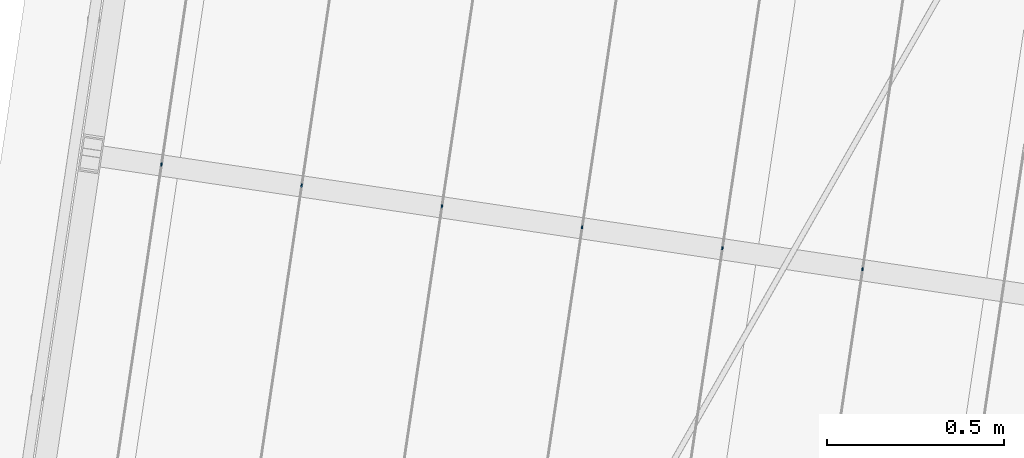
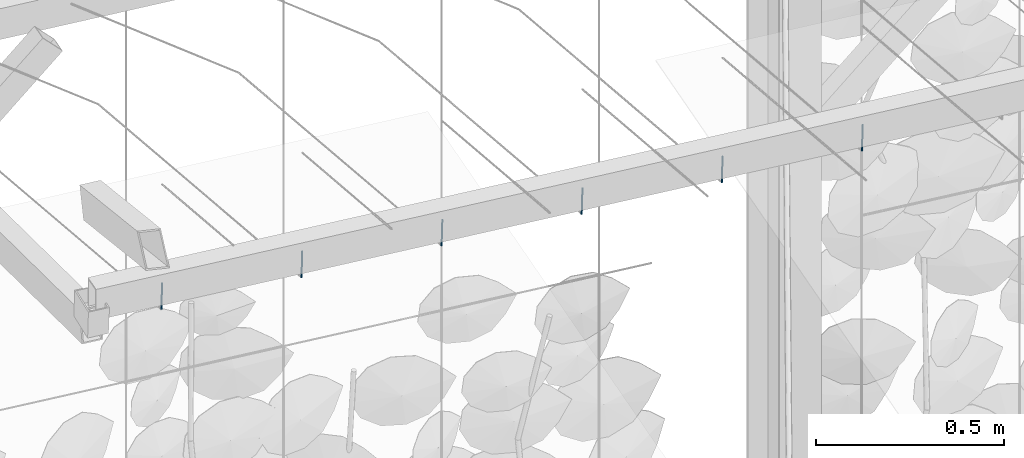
# One storey, part 131 of 142: 6 members, 1 element without a shape of its own.
"""IFC4 building model written with IfcOpenShell, lengths in metres."""

from ifc_helpers import new_model, si_unit, direction, frame, origin_with_axes, place, context, subcontext, project, spatial, circle, extrude, material, material_profile, profile_set, profile_usage, type_object, element, aggregate, save


model = new_model("IFC4")

# Units and contexts
model_context = context("Model", 3, precision=1e-05, world=origin_with_axes(), true_north=direction((0.0, 1.0)))
body_context = subcontext(model_context, "Body", "Model", "MODEL_VIEW")
ifc_project = project(units=[si_unit("AREAUNIT", "SQUARE_METRE"), si_unit("VOLUMEUNIT", "CUBIC_METRE"), si_unit("LENGTHUNIT", "METRE")], contexts=[model_context])

# Site, building, storey
site_placement = place(None, origin_with_axes())
site = spatial("IfcSite", under=ifc_project, at=site_placement, Name="Lares · Rua das Mercês · artigo 4771")
building_placement = place(site_placement, frame((15.0, 9.7, 14.65), z_axis=(0.0, 0.0, 1.0), x_axis=(0.989015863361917, -0.147809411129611, 0.0)))
building = spatial("IfcBuilding", under=site, at=building_placement, Name="Casa Sobreposta")
storey_placement = place(building_placement, origin_with_axes())
storey = spatial("IfcBuildingStorey", under=building, at=storey_placement, Name="00 · Habitação e estacionamento", Elevation=14.65)

# Assembly, members
assembly_placement = place(storey_placement, origin_with_axes())
assembly = element("IfcElementAssembly", 1, at=assembly_placement, inside=storey, Name="Pérgola · prolongamento da estufa 6 m", ObjectType="PERGOLA_GREENHOUSE_EXTENSION", PredefinedType="USERDEFINED")
ifc_material = material(Name="Aço galvanizado / Stahl verzinkt", Category="steel")
ifc_material_profile = material_profile(ifc_material, circle(Radius=0.002))
ifc_profile_set = profile_set([ifc_material_profile], Name="D0.004")
ifc_profile_usage_1 = profile_usage(ifc_profile_set)
member_type = type_object("IfcMemberType", Name="D0.004 / galvanized", PredefinedType="NOTDEFINED", material=ifc_profile_set)
member_1_placement = place(assembly_placement, frame((-5.8, 3.68002089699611, 7.30067689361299), z_axis=(0.0, 0.0651953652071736, -0.997872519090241), x_axis=(1.0, 0.0, 0.0)))
member_1 = element("IfcMember", 2, at=member_1_placement, type_object=member_type, material=ifc_profile_usage_1, Name="Pérgola · fio para trepadeiras", context=body_context, shape_type="SweptSolid", body=[
    extrude(circle(Radius=0.002), origin_with_axes(), (0.0, 0.0, 1.0), 0.0875840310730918),
])
ifc_profile_usage_2 = profile_usage(ifc_profile_set)
member_2_placement = place(assembly_placement, frame((-5.4, 3.68002089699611, 7.30067689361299), z_axis=(0.0, 0.0651953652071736, -0.997872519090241), x_axis=(1.0, 0.0, 0.0)))
member_2 = element("IfcMember", 3, at=member_2_placement, type_object=member_type, material=ifc_profile_usage_2, Name="Pérgola · fio para trepadeiras", context=body_context, shape_type="SweptSolid", body=[
    extrude(circle(Radius=0.002), origin_with_axes(), (0.0, 0.0, 1.0), 0.0875840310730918),
])
ifc_profile_usage_3 = profile_usage(ifc_profile_set)
member_3_placement = place(assembly_placement, frame((-5.0, 3.68002089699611, 7.30067689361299), z_axis=(0.0, 0.0651953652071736, -0.997872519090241), x_axis=(1.0, 0.0, 0.0)))
member_3 = element("IfcMember", 4, at=member_3_placement, type_object=member_type, material=ifc_profile_usage_3, Name="Pérgola · fio para trepadeiras", context=body_context, shape_type="SweptSolid", body=[
    extrude(circle(Radius=0.002), origin_with_axes(), (0.0, 0.0, 1.0), 0.0875840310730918),
])
ifc_profile_usage_4 = profile_usage(ifc_profile_set)
member_4_placement = place(assembly_placement, frame((-4.6, 3.68002089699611, 7.30067689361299), z_axis=(0.0, 0.0651953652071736, -0.997872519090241), x_axis=(1.0, 0.0, 0.0)))
member_4 = element("IfcMember", 5, at=member_4_placement, type_object=member_type, material=ifc_profile_usage_4, Name="Pérgola · fio para trepadeiras", context=body_context, shape_type="SweptSolid", body=[
    extrude(circle(Radius=0.002), origin_with_axes(), (0.0, 0.0, 1.0), 0.0875840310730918),
])
ifc_profile_usage_5 = profile_usage(ifc_profile_set)
member_5_placement = place(assembly_placement, frame((-4.2, 3.68002089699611, 7.30067689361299), z_axis=(0.0, 0.0651953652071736, -0.997872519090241), x_axis=(1.0, 0.0, 0.0)))
member_5 = element("IfcMember", 6, at=member_5_placement, type_object=member_type, material=ifc_profile_usage_5, Name="Pérgola · fio para trepadeiras", context=body_context, shape_type="SweptSolid", body=[
    extrude(circle(Radius=0.002), origin_with_axes(), (0.0, 0.0, 1.0), 0.0875840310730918),
])
ifc_profile_usage_6 = profile_usage(ifc_profile_set)
member_6_placement = place(assembly_placement, frame((-3.8, 3.68002089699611, 7.30067689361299), z_axis=(0.0, 0.0651953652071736, -0.997872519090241), x_axis=(1.0, 0.0, 0.0)))
member_6 = element("IfcMember", 7, at=member_6_placement, type_object=member_type, material=ifc_profile_usage_6, Name="Pérgola · fio para trepadeiras", context=body_context, shape_type="SweptSolid", body=[
    extrude(circle(Radius=0.002), origin_with_axes(), (0.0, 0.0, 1.0), 0.0875840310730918),
])
aggregate(assembly, [member_1, member_2, member_3, member_4, member_5, member_6])

save(model, "model.ifc")
